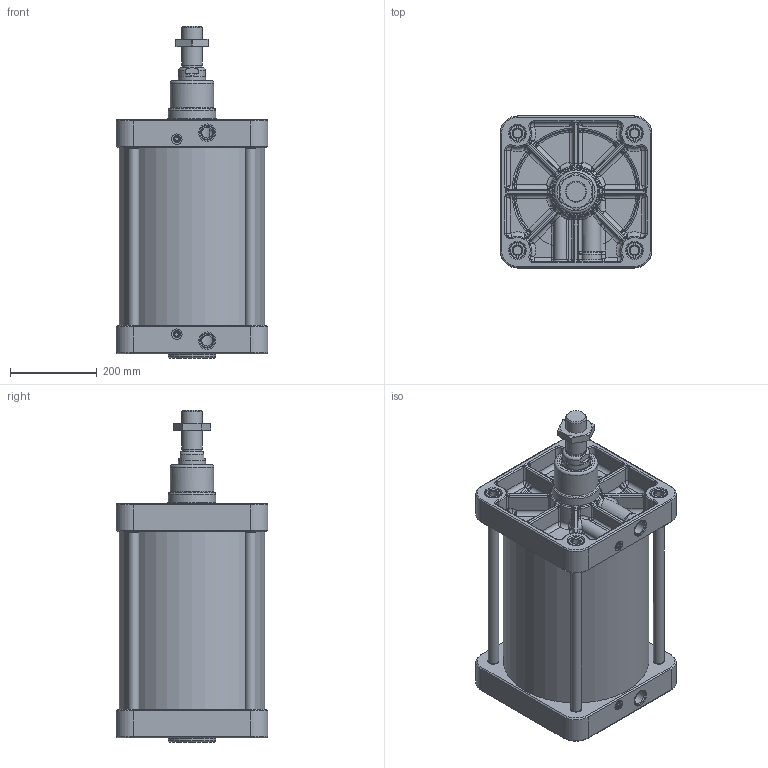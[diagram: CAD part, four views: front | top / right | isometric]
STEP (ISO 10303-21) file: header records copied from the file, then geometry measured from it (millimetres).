
FILE_DESCRIPTION(/* description */ (''),/* implementation_level */ '2;1');
FILE_NAME(/* name */ 'T:\Archivio Inventor\- 00 NUOVI STP PER SITO CON STELO CHE SI MUOVE\SERIE H - U\SERIE UDM\UDM320.---.GS.M\UDM320.320.GS.M.stp',/* time_stamp */ '2020-04-29T16:30:42+02:00',/* author */ ('carlo.corazza'),/* organization */ (''),/* preprocessor_version */ 'ST-DEVELOPER v16.5',/* originating_system */ 'Autodesk Inventor 2017',/* authorisation */ '');
FILE_SCHEMA (('AUTOMOTIVE_DESIGN { 1 0 10303 214 3 1 1 }'));
Length unit declared in the file: millimetre
Products named in the file (7): UDM320.320.GS.M; TP; STELO-320; TA; CORPO-320; TIRANTE-320; 29.2048.000.0
Assembly tree (9 placements, depth 2):
  UDM320.320.GS.M
    TP
    STELO-320
    TA
    TIRANTE-320  x4
    CORPO-320
    29.2048.000.0
Bounding box: 350 x 350 x 766 mm (x, y, z)
Volume: 15301744.5 mm3; surface area: 2291073.5 mm2
Topology: 9 solids, 16 shells, 1710 faces, 3937 edges, 2221 vertices
Faces by surface type: cylinder 439, bspline 432, plane 380, torus 252, cone 115, sphere 92
Full cylindrical faces by diameter (mm): 8 x2, 9 x1, 10 x1, 11 x2, 11.2 x2, 12 x2, 12.376 x1, 13.4 x4, 14 x2, 15.8 x4, 16 x6, 20.752 x8, 24 x10, 24.5 x8, 25 x6, 30.291 x2, 36 x9, 37 x8, 40 x2, 44.8 x1, 45.835 x1, 48 x1, 62 x1, 63 x1, 64 x1, 64.293 x1, 65.8 x1, 73 x1, 75 x3, 100 x1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
Entity records: 64917 total; most frequent: CARTESIAN_POINT 27888, DIRECTION 7314, ORIENTED_EDGE 7088, EDGE_CURVE 3544, AXIS2_PLACEMENT_3D 3113, VERTEX_POINT 2134, EDGE_LOOP 1966, FACE_OUTER_BOUND 1683
